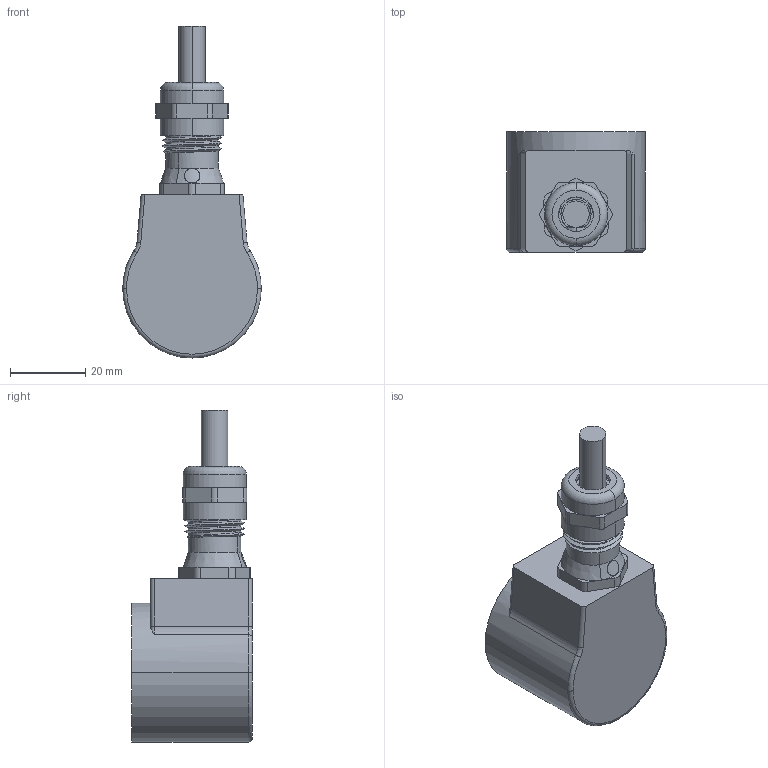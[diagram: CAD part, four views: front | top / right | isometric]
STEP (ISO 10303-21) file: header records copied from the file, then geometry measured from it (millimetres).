
FILE_DESCRIPTION (( 'STEP AP214' ), '1' );
FILE_NAME ('drawing-mc-3-cr-320-szm-nnn12b-n-2rv-l.STEP', '2018-05-09T08:15:53', ( '' ), ( '' ), 'SwSTEP 2.0', 'SolidWorks 2017', '' );
FILE_SCHEMA (( 'AUTOMOTIVE_DESIGN' ));
Length unit declared in the file: millimetre
Products named in the file (1): drawing-mc-3-cr-320-szm-nnn12b-n-2rv-l
Bounding box: 36.8 x 32 x 88.15 mm (x, y, z)
Volume: 15522.3 mm3; surface area: 19181.4 mm2
Topology: 7 solids, 7 shells, 384 faces, 1027 edges, 668 vertices
Faces by surface type: plane 167, cylinder 162, torus 36, bspline 9, cone 8, sphere 2
Entity records: 17947 total; most frequent: CARTESIAN_POINT 4189, ORIENTED_EDGE 2042, DIRECTION 1955, EDGE_CURVE 1021, AXIS2_PLACEMENT_3D 766, VERTEX_POINT 666, LINE 423, VECTOR 423
